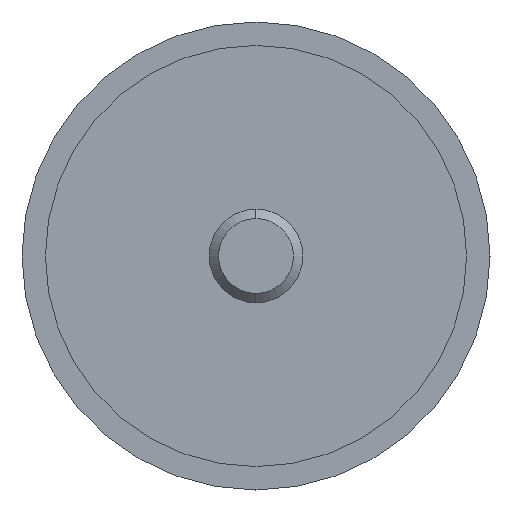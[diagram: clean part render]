
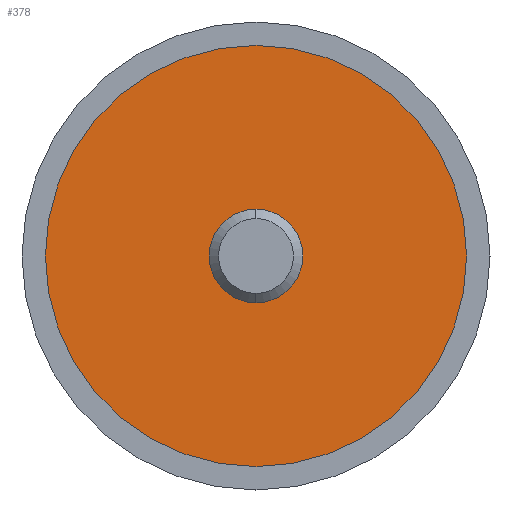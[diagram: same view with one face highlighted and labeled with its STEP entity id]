
A CAD part, left-side view. The second image highlights one B-rep face of the part: STEP entity #378.
In plain terms, the highlighted planar face has unit normal (-1, 0, 0).
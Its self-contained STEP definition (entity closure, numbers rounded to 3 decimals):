
#2 = DIRECTION ( 'NONE',  ( 0., 0., -1. ) ) ;
#8 = ORIENTED_EDGE ( 'NONE', *, *, #140, .T. ) ;
#12 = AXIS2_PLACEMENT_3D ( 'NONE', #33, #443, #334 ) ;
#18 = VERTEX_POINT ( 'NONE', #439 ) ;
#33 = CARTESIAN_POINT ( 'NONE',  ( -22.49, 18., 0. ) ) ;
#48 = CARTESIAN_POINT ( 'NONE',  ( -22.49, 0., -18. ) ) ;
#56 = AXIS2_PLACEMENT_3D ( 'NONE', #459, #562, #614 ) ;
#92 = DIRECTION ( 'NONE',  ( -1., 0., 0. ) ) ;
#96 = CARTESIAN_POINT ( 'NONE',  ( -22.49, 0., 0. ) ) ;
#118 = DIRECTION ( 'NONE',  ( -1., 0., 0. ) ) ;
#119 = VERTEX_POINT ( 'NONE', #48 ) ;
#140 = EDGE_CURVE ( 'NONE', #119, #18, #284, .T. ) ;
#147 = EDGE_LOOP ( 'NONE', ( #168, #539 ) ) ;
#168 = ORIENTED_EDGE ( 'NONE', *, *, #607, .F. ) ;
#213 = VERTEX_POINT ( 'NONE', #517 ) ;
#232 = FACE_OUTER_BOUND ( 'NONE', #613, .T. ) ;
#243 = AXIS2_PLACEMENT_3D ( 'NONE', #312, #118, #327 ) ;
#247 = EDGE_CURVE ( 'NONE', #582, #213, #273, .T. ) ;
#251 = CARTESIAN_POINT ( 'NONE',  ( -22.49, 0., -4. ) ) ;
#268 = ORIENTED_EDGE ( 'NONE', *, *, #569, .T. ) ;
#273 = CIRCLE ( 'NONE', #521, 4. ) ;
#284 = CIRCLE ( 'NONE', #56, 18. ) ;
#312 = CARTESIAN_POINT ( 'NONE',  ( -22.49, 0., 0. ) ) ;
#327 = DIRECTION ( 'NONE',  ( 0., 0., -1. ) ) ;
#334 = DIRECTION ( 'NONE',  ( 0., 0., -1. ) ) ;
#342 = PLANE ( 'NONE',  #12 ) ;
#354 = CIRCLE ( 'NONE', #243, 4. ) ;
#378 = ADVANCED_FACE ( 'NONE', ( #232, #664 ), #342, .F. ) ;
#409 = DIRECTION ( 'NONE',  ( 0., 0., 1. ) ) ;
#418 = AXIS2_PLACEMENT_3D ( 'NONE', #516, #92, #409 ) ;
#439 = CARTESIAN_POINT ( 'NONE',  ( -22.49, 0., 18. ) ) ;
#443 = DIRECTION ( 'NONE',  ( 1., 0., 0. ) ) ;
#453 = CIRCLE ( 'NONE', #418, 18. ) ;
#459 = CARTESIAN_POINT ( 'NONE',  ( -22.49, 0., 0. ) ) ;
#462 = DIRECTION ( 'NONE',  ( -1., 0., 0. ) ) ;
#516 = CARTESIAN_POINT ( 'NONE',  ( -22.49, 0., 0. ) ) ;
#517 = CARTESIAN_POINT ( 'NONE',  ( -22.49, 0., 4. ) ) ;
#521 = AXIS2_PLACEMENT_3D ( 'NONE', #96, #462, #2 ) ;
#539 = ORIENTED_EDGE ( 'NONE', *, *, #247, .F. ) ;
#562 = DIRECTION ( 'NONE',  ( -1., 0., 0. ) ) ;
#569 = EDGE_CURVE ( 'NONE', #18, #119, #453, .T. ) ;
#582 = VERTEX_POINT ( 'NONE', #251 ) ;
#607 = EDGE_CURVE ( 'NONE', #213, #582, #354, .T. ) ;
#613 = EDGE_LOOP ( 'NONE', ( #268, #8 ) ) ;
#614 = DIRECTION ( 'NONE',  ( 0., 0., 1. ) ) ;
#664 = FACE_BOUND ( 'NONE', #147, .T. ) ;
